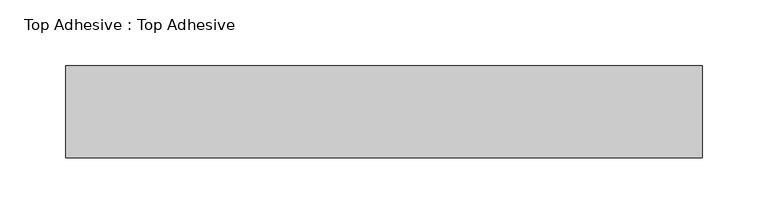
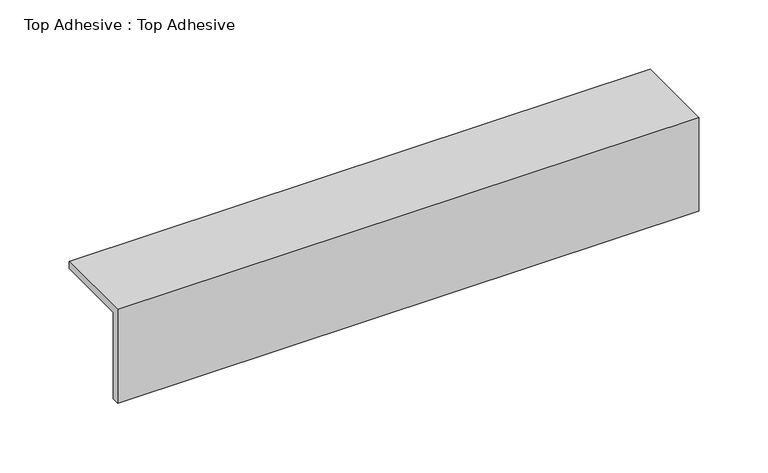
"""IFC4 building model written with IfcOpenShell, lengths in millimetres: proxy geometry, Top Adhesive : Top Adhesive."""

from ifc_helpers import new_model, si_unit, frame, origin, place, context, project, spatial, polyline, outline, extrude, source, transform, mapped, element, save


def top_adhesive_top_adhesive_8120ce26(model_context):
    return source(origin(), model_context, "Body", "SweptSolid", [
        extrude(outline(polyline([(637.1566297, -85.725), (630.8066297, -85.725), (630.8066297, -3.175), (700.6566297, -3.175), (700.6566297, -9.525), (637.1566297, -9.525), (637.1566297, -85.725)])), frame((26615.3789273, 0.0, 0.0), z_axis=(1.0, 0.0, 0.0), x_axis=(0.0, 1.0, 0.0)), (0.0, 0.0, 1.0), 483.39375),
    ])


if __name__ == "__main__":
    model = new_model("IFC4")
    model_context = context("Model", 3, world=origin())
    ifc_project = project(units=[si_unit("LENGTHUNIT", "METRE", prefix="MILLI")], contexts=[model_context])
    site = spatial("IfcSite", under=ifc_project)
    building = spatial("IfcBuilding", under=site)
    placement = place(None, origin())
    top_adhesive_top_adhesive_shape = top_adhesive_top_adhesive_8120ce26(model_context)
    element("IfcBuildingElementProxy", 1, Name="Top Adhesive : Top Adhesive", ObjectType="Top Adhesive : Top Adhesive", at=placement, inside=building, context=model_context, shape_type="MappedRepresentation", body=[
        mapped(top_adhesive_top_adhesive_shape, transform((0.0, 0.0, 0.0), x_axis=(1.0, 0.0, 0.0), y_axis=(0.0, 1.0, 0.0), z_axis=(0.0, 0.0, 1.0))),
    ])
    save(model, "model.ifc")
